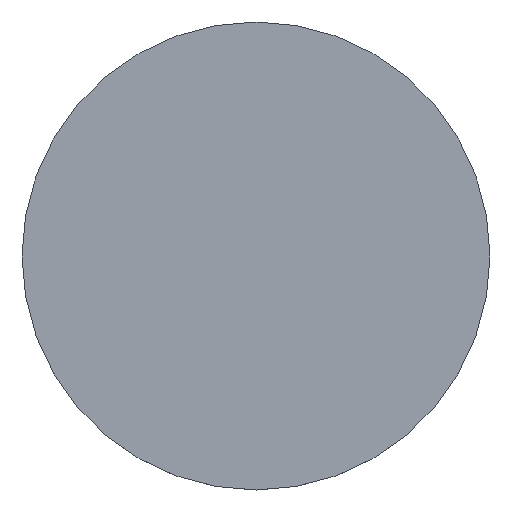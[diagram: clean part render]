
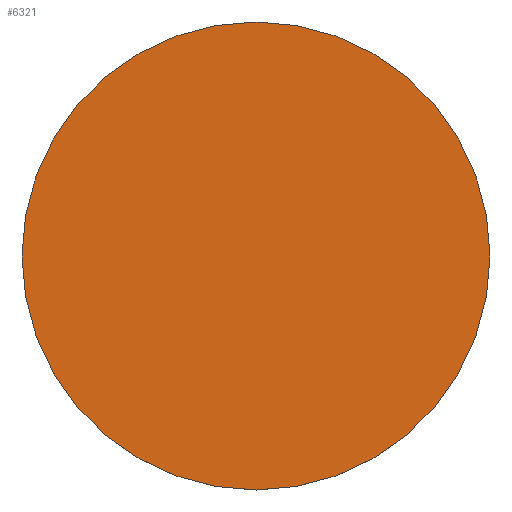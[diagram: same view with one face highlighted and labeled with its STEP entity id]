
A CAD part, top view. The second image highlights one B-rep face of the part: STEP entity #6321.
In plain terms, the highlighted planar face has unit normal (0, 0, 1).
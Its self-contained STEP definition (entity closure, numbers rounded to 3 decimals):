
#5191=CARTESIAN_POINT(' ',(25.25,0.,30.));
#5192=VERTEX_POINT(' ',#5191);
#5206=CARTESIAN_POINT(' ',(0.,0.,30.));
#5211=DIRECTION(' ',(0.,0.,-1.));
#5216=DIRECTION(' ',(1.,0.,0.));
#5221=AXIS2_PLACEMENT_3D(' ',#5206,#5211,#5216);
#5226=CIRCLE('',#5221,25.25);
#5231=CARTESIAN_POINT(' ',(-25.25,0.,30.));
#5232=VERTEX_POINT(' ',#5231);
#5236=EDGE_CURVE(' ',#5192,#5232,#5226,.T.);
#5336=CARTESIAN_POINT(' ',(0.,0.,30.));
#5341=DIRECTION(' ',(0.,-0.,-1.));
#5346=DIRECTION(' ',(-1.,0.,0.));
#5351=AXIS2_PLACEMENT_3D(' ',#5336,#5341,#5346);
#5356=CIRCLE('',#5351,25.25);
#5361=EDGE_CURVE(' ',#5232,#5192,#5356,.T.);
#6276=DIRECTION(' ',(0.,0.,1.));
#6281=CARTESIAN_POINT(' ',(-25.25,-25.662,30.));
#6286=DIRECTION(' ',(1.,0.,0.));
#6291=AXIS2_PLACEMENT_3D(' ',#6281,#6276,#6286);
#6296=PLANE('',#6291);
#6301=ORIENTED_EDGE(' ',*,*,#5361,.F.);
#6306=ORIENTED_EDGE(' ',*,*,#5236,.F.);
#6311=EDGE_LOOP(' ',(#6301,#6306));
#6316=FACE_OUTER_BOUND(' ',#6311,.T.);
#6321=ADVANCED_FACE('',(#6316),#6296,.T.);
